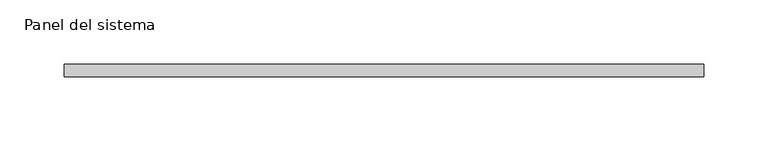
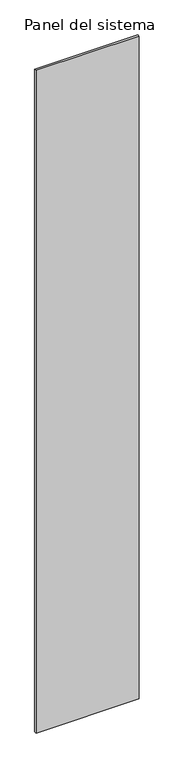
"""IFC4 building model written with IfcOpenShell, lengths in millimetres: plate geometry, Panel del sistema : HIANSA PANEL - PANELES DE CUBIERTA SIN TAPAJUNTA - EASY ALU 5GR - Esp. 10mm."""

from ifc_helpers import new_model, si_unit, origin, origin_with_axes, place, context, project, spatial, polyline, outline, extrude, source, transform, mapped, element, save


def panel_del_sistema_36a2e9c3(model_context):
    return source(origin(), model_context, "Body", "SweptSolid", [
        extrude(outline(polyline([(249.9999998, 0.0), (-249.9999998, 0.0), (-249.9999998, 10.0), (249.9999998, 10.0), (249.9999998, 0.0)])), origin_with_axes(), (0.0, 0.0, 1.0), 3390.8509027),
    ])


if __name__ == "__main__":
    model = new_model("IFC4")
    model_context = context("Model", 3, world=origin())
    ifc_project = project(units=[si_unit("LENGTHUNIT", "METRE", prefix="MILLI")], contexts=[model_context])
    site = spatial("IfcSite", under=ifc_project)
    building = spatial("IfcBuilding", under=site)
    placement = place(None, origin())
    panel_del_sistema_shape = panel_del_sistema_36a2e9c3(model_context)
    element("IfcPlate", 1, ObjectType="Panel del sistema : HIANSA PANEL - PANELES DE CUBIERTA SIN TAPAJUNTA - EASY ALU 5GR - Esp. 10mm", at=placement, inside=building, context=model_context, shape_type="MappedRepresentation", body=[
        mapped(panel_del_sistema_shape, transform((0.0, 0.0, 0.0), x_axis=(1.0, 0.0, 0.0), y_axis=(0.0, 1.0, 0.0), z_axis=(0.0, 0.0, 1.0))),
    ])
    save(model, "model.ifc")
